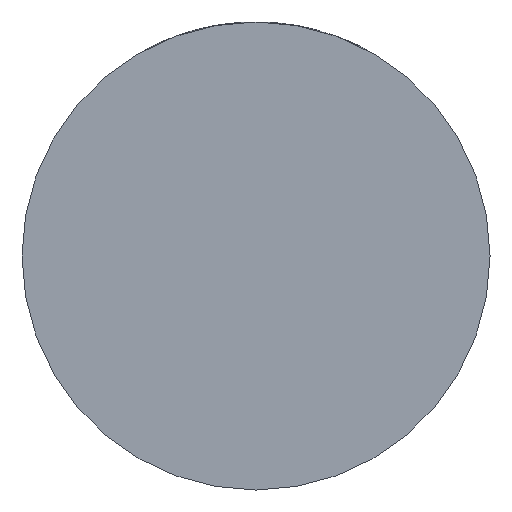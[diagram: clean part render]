
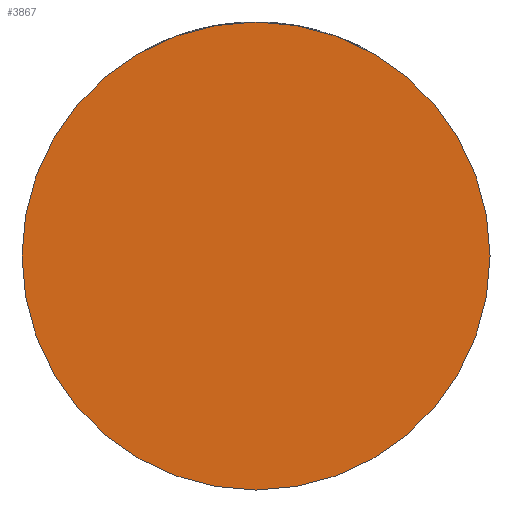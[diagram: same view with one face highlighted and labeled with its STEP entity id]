
A CAD part, front view. The second image highlights one B-rep face of the part: STEP entity #3867.
In plain terms, the highlighted planar face has unit normal (0, -1, 0).
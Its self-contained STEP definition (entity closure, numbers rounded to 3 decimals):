
#236 = AXIS2_PLACEMENT_3D ( 'NONE', #612, #341, #1710 ) ;
#341 = DIRECTION ( 'NONE',  ( 0., -1., 0. ) ) ;
#345 = CARTESIAN_POINT ( 'NONE',  ( 0., -36., 0. ) ) ;
#384 = EDGE_CURVE ( 'NONE', #4283, #1401, #3383, .T. ) ;
#612 = CARTESIAN_POINT ( 'NONE',  ( 0., -36., 0. ) ) ;
#1028 = ORIENTED_EDGE ( 'NONE', *, *, #384, .T. ) ;
#1248 = EDGE_LOOP ( 'NONE', ( #1690, #1028 ) ) ;
#1330 = DIRECTION ( 'NONE',  ( 1., 0., 0. ) ) ;
#1401 = VERTEX_POINT ( 'NONE', #3864 ) ;
#1690 = ORIENTED_EDGE ( 'NONE', *, *, #3525, .T. ) ;
#1710 = DIRECTION ( 'NONE',  ( 1., 0., 0. ) ) ;
#2414 = FACE_OUTER_BOUND ( 'NONE', #1248, .T. ) ;
#2456 = AXIS2_PLACEMENT_3D ( 'NONE', #3053, #4126, #1330 ) ;
#3053 = CARTESIAN_POINT ( 'NONE',  ( 0., -36., 0. ) ) ;
#3239 = CARTESIAN_POINT ( 'NONE',  ( 39., -36., 0. ) ) ;
#3383 = CIRCLE ( 'NONE', #4035, 39. ) ;
#3415 = DIRECTION ( 'NONE',  ( 0., -1., 0. ) ) ;
#3434 = PLANE ( 'NONE',  #236 ) ;
#3525 = EDGE_CURVE ( 'NONE', #1401, #4283, #4205, .T. ) ;
#3864 = CARTESIAN_POINT ( 'NONE',  ( -39., -36., 0. ) ) ;
#3867 = ADVANCED_FACE ( 'NONE', ( #2414 ), #3434, .T. ) ;
#4035 = AXIS2_PLACEMENT_3D ( 'NONE', #345, #3415, #4435 ) ;
#4126 = DIRECTION ( 'NONE',  ( 0., -1., 0. ) ) ;
#4205 = CIRCLE ( 'NONE', #2456, 39. ) ;
#4283 = VERTEX_POINT ( 'NONE', #3239 ) ;
#4435 = DIRECTION ( 'NONE',  ( 1., 0., 0. ) ) ;
